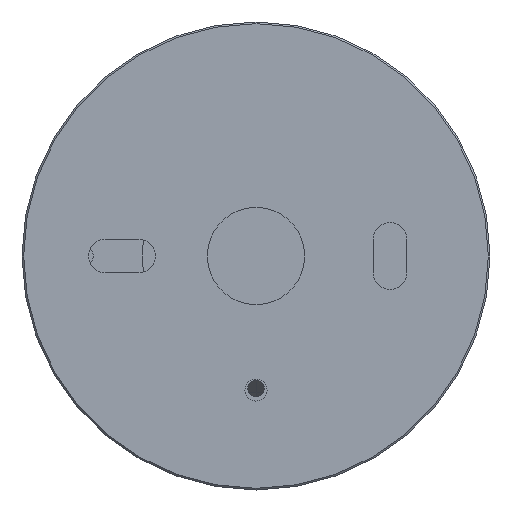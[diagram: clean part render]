
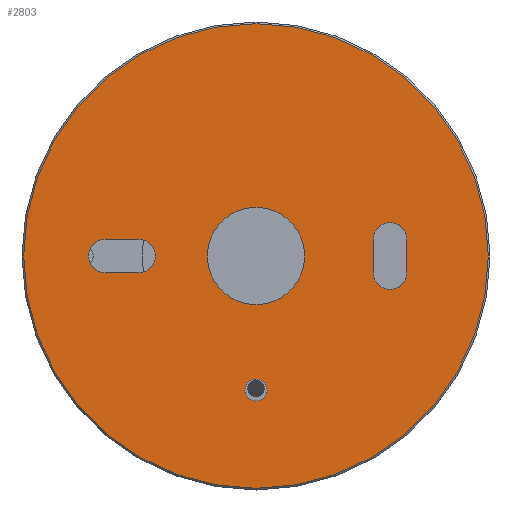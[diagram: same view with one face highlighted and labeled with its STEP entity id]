
A CAD part, front view. The second image highlights one B-rep face of the part: STEP entity #2803.
In plain terms, the highlighted planar face has unit normal (0, -1, 0).
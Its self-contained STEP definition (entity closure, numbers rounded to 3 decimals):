
#46 = LINE ( 'NONE', #4424, #12959 ) ;
#106 = CARTESIAN_POINT ( 'NONE',  ( 0., 0., 0. ) ) ;
#146 = AXIS2_PLACEMENT_3D ( 'NONE', #12296, #8902, #11210 ) ;
#591 = ORIENTED_EDGE ( 'NONE', *, *, #10728, .T. ) ;
#607 = AXIS2_PLACEMENT_3D ( 'NONE', #3092, #4299, #9565 ) ;
#684 = AXIS2_PLACEMENT_3D ( 'NONE', #9471, #11489, #11704 ) ;
#854 = CARTESIAN_POINT ( 'NONE',  ( 0., 0., 7.25 ) ) ;
#1094 = VERTEX_POINT ( 'NONE', #8092 ) ;
#1095 = DIRECTION ( 'NONE',  ( 0., 0., 1. ) ) ;
#1181 = CIRCLE ( 'NONE', #6694, 2.5 ) ;
#1344 = EDGE_CURVE ( 'NONE', #12736, #5374, #3098, .T. ) ;
#1399 = ORIENTED_EDGE ( 'NONE', *, *, #1344, .T. ) ;
#1416 = FACE_BOUND ( 'NONE', #4879, .T. ) ;
#1531 = CIRCLE ( 'NONE', #607, 1.65 ) ;
#1618 = CARTESIAN_POINT ( 'NONE',  ( 17.5, 0., -2.5 ) ) ;
#1643 = EDGE_CURVE ( 'NONE', #9329, #2565, #5933, .T. ) ;
#1953 = ORIENTED_EDGE ( 'NONE', *, *, #1643, .T. ) ;
#2135 = DIRECTION ( 'NONE',  ( 1., 0., 0. ) ) ;
#2188 = EDGE_CURVE ( 'NONE', #13664, #12256, #7594, .T. ) ;
#2313 = DIRECTION ( 'NONE',  ( 0., 1., 0. ) ) ;
#2393 = DIRECTION ( 'NONE',  ( 0., 0., 1. ) ) ;
#2423 = VERTEX_POINT ( 'NONE', #3586 ) ;
#2565 = VERTEX_POINT ( 'NONE', #854 ) ;
#2665 = CARTESIAN_POINT ( 'NONE',  ( -22.5, 0., -2.5 ) ) ;
#2700 = ORIENTED_EDGE ( 'NONE', *, *, #4131, .T. ) ;
#2747 = DIRECTION ( 'NONE',  ( 0., -1., 0. ) ) ;
#2803 = ADVANCED_FACE ( 'NONE', ( #7949, #6884, #11275, #1416, #3850 ), #7235, .T. ) ;
#2972 = EDGE_LOOP ( 'NONE', ( #4535, #1953 ) ) ;
#3065 = EDGE_CURVE ( 'NONE', #12521, #13664, #6179, .T. ) ;
#3068 = DIRECTION ( 'NONE',  ( 0., 0., 1. ) ) ;
#3092 = CARTESIAN_POINT ( 'NONE',  ( 0., 0., -20. ) ) ;
#3098 = CIRCLE ( 'NONE', #5391, 2.5 ) ;
#3416 = LINE ( 'NONE', #6795, #11442 ) ;
#3427 = VERTEX_POINT ( 'NONE', #4043 ) ;
#3547 = CARTESIAN_POINT ( 'NONE',  ( 22.5, 0., 2.5 ) ) ;
#3586 = CARTESIAN_POINT ( 'NONE',  ( 0., 0., -18.35 ) ) ;
#3850 = FACE_BOUND ( 'NONE', #2972, .T. ) ;
#3960 = DIRECTION ( 'NONE',  ( -1., 0., 0. ) ) ;
#3989 = CIRCLE ( 'NONE', #11821, 7.25 ) ;
#4043 = CARTESIAN_POINT ( 'NONE',  ( -17.5, 0., 2.5 ) ) ;
#4078 = VERTEX_POINT ( 'NONE', #5813 ) ;
#4095 = AXIS2_PLACEMENT_3D ( 'NONE', #10156, #9869, #1095 ) ;
#4131 = EDGE_CURVE ( 'NONE', #12256, #10272, #46, .T. ) ;
#4295 = CARTESIAN_POINT ( 'NONE',  ( 0., 0., -7.25 ) ) ;
#4299 = DIRECTION ( 'NONE',  ( 0., -1., 0. ) ) ;
#4420 = VERTEX_POINT ( 'NONE', #4842 ) ;
#4424 = CARTESIAN_POINT ( 'NONE',  ( 22.5, 0., -2.5 ) ) ;
#4503 = CIRCLE ( 'NONE', #146, 1.65 ) ;
#4535 = ORIENTED_EDGE ( 'NONE', *, *, #6084, .T. ) ;
#4636 = CARTESIAN_POINT ( 'NONE',  ( -22.5, 0., 2.5 ) ) ;
#4808 = EDGE_CURVE ( 'NONE', #4420, #1094, #10631, .T. ) ;
#4842 = CARTESIAN_POINT ( 'NONE',  ( 0., 0., -34.65 ) ) ;
#4879 = EDGE_LOOP ( 'NONE', ( #5824, #12596, #9806, #8710, #2700 ) ) ;
#5042 = LINE ( 'NONE', #9512, #14080 ) ;
#5374 = VERTEX_POINT ( 'NONE', #9846 ) ;
#5391 = AXIS2_PLACEMENT_3D ( 'NONE', #6863, #13213, #13498 ) ;
#5760 = VECTOR ( 'NONE', #2135, 1000. ) ;
#5813 = CARTESIAN_POINT ( 'NONE',  ( -17.5, 0., -2.5 ) ) ;
#5824 = ORIENTED_EDGE ( 'NONE', *, *, #7548, .T. ) ;
#5933 = CIRCLE ( 'NONE', #4095, 7.25 ) ;
#6077 = DIRECTION ( 'NONE',  ( 0., 1., 0. ) ) ;
#6084 = EDGE_CURVE ( 'NONE', #2565, #9329, #3989, .T. ) ;
#6179 = CIRCLE ( 'NONE', #7582, 2.5 ) ;
#6251 = CARTESIAN_POINT ( 'NONE',  ( 0., 0., 0. ) ) ;
#6261 = AXIS2_PLACEMENT_3D ( 'NONE', #10366, #2747, #7128 ) ;
#6327 = DIRECTION ( 'NONE',  ( 0., 0., -1. ) ) ;
#6502 = AXIS2_PLACEMENT_3D ( 'NONE', #6251, #7331, #6327 ) ;
#6588 = DIRECTION ( 'NONE',  ( 0., 0., -1. ) ) ;
#6622 = ORIENTED_EDGE ( 'NONE', *, *, #10176, .F. ) ;
#6658 = LINE ( 'NONE', #4636, #5760 ) ;
#6694 = AXIS2_PLACEMENT_3D ( 'NONE', #10157, #2313, #2393 ) ;
#6795 = CARTESIAN_POINT ( 'NONE',  ( 17.5, 0., -2.5 ) ) ;
#6863 = CARTESIAN_POINT ( 'NONE',  ( -22.5, 0., 0. ) ) ;
#6884 = FACE_BOUND ( 'NONE', #7784, .T. ) ;
#7040 = ORIENTED_EDGE ( 'NONE', *, *, #4808, .T. ) ;
#7128 = DIRECTION ( 'NONE',  ( 0., 0., -1. ) ) ;
#7235 = PLANE ( 'NONE',  #684 ) ;
#7331 = DIRECTION ( 'NONE',  ( 0., -1., 0. ) ) ;
#7535 = ORIENTED_EDGE ( 'NONE', *, *, #11406, .T. ) ;
#7548 = EDGE_CURVE ( 'NONE', #10272, #7926, #1181, .T. ) ;
#7582 = AXIS2_PLACEMENT_3D ( 'NONE', #8538, #12927, #3068 ) ;
#7594 = CIRCLE ( 'NONE', #11738, 2.5 ) ;
#7784 = EDGE_LOOP ( 'NONE', ( #10926, #6622 ) ) ;
#7855 = ORIENTED_EDGE ( 'NONE', *, *, #12874, .T. ) ;
#7864 = CARTESIAN_POINT ( 'NONE',  ( 20., 0., 5. ) ) ;
#7926 = VERTEX_POINT ( 'NONE', #1618 ) ;
#7949 = FACE_OUTER_BOUND ( 'NONE', #10237, .T. ) ;
#8092 = CARTESIAN_POINT ( 'NONE',  ( 0., 0., 34.65 ) ) ;
#8538 = CARTESIAN_POINT ( 'NONE',  ( 20., 0., 2.5 ) ) ;
#8710 = ORIENTED_EDGE ( 'NONE', *, *, #2188, .T. ) ;
#8902 = DIRECTION ( 'NONE',  ( 0., -1., 0. ) ) ;
#9329 = VERTEX_POINT ( 'NONE', #4295 ) ;
#9471 = CARTESIAN_POINT ( 'NONE',  ( 0., 0., 0. ) ) ;
#9512 = CARTESIAN_POINT ( 'NONE',  ( -22.5, 0., -2.5 ) ) ;
#9565 = DIRECTION ( 'NONE',  ( 0., 0., -1. ) ) ;
#9670 = EDGE_LOOP ( 'NONE', ( #1399, #591, #11190, #7535 ) ) ;
#9806 = ORIENTED_EDGE ( 'NONE', *, *, #3065, .T. ) ;
#9838 = EDGE_CURVE ( 'NONE', #3427, #4078, #14185, .T. ) ;
#9846 = CARTESIAN_POINT ( 'NONE',  ( -22.5, 0., 2.5 ) ) ;
#9869 = DIRECTION ( 'NONE',  ( 0., 1., 0. ) ) ;
#10156 = CARTESIAN_POINT ( 'NONE',  ( 0., 0., 0. ) ) ;
#10157 = CARTESIAN_POINT ( 'NONE',  ( 20., 0., -2.5 ) ) ;
#10172 = DIRECTION ( 'NONE',  ( 0., 0., 1. ) ) ;
#10176 = EDGE_CURVE ( 'NONE', #12540, #2423, #1531, .T. ) ;
#10237 = EDGE_LOOP ( 'NONE', ( #7855, #7040 ) ) ;
#10272 = VERTEX_POINT ( 'NONE', #10932 ) ;
#10366 = CARTESIAN_POINT ( 'NONE',  ( 0., 0., 0. ) ) ;
#10387 = EDGE_CURVE ( 'NONE', #2423, #12540, #4503, .T. ) ;
#10589 = CARTESIAN_POINT ( 'NONE',  ( 17.5, 0., 2.5 ) ) ;
#10631 = CIRCLE ( 'NONE', #6261, 34.65 ) ;
#10672 = CARTESIAN_POINT ( 'NONE',  ( -17.5, 0., 0. ) ) ;
#10728 = EDGE_CURVE ( 'NONE', #5374, #3427, #6658, .T. ) ;
#10926 = ORIENTED_EDGE ( 'NONE', *, *, #10387, .F. ) ;
#10932 = CARTESIAN_POINT ( 'NONE',  ( 22.5, 0., -2.5 ) ) ;
#11190 = ORIENTED_EDGE ( 'NONE', *, *, #9838, .T. ) ;
#11210 = DIRECTION ( 'NONE',  ( 0., 0., -1. ) ) ;
#11275 = FACE_BOUND ( 'NONE', #9670, .T. ) ;
#11406 = EDGE_CURVE ( 'NONE', #4078, #12736, #5042, .T. ) ;
#11442 = VECTOR ( 'NONE', #12201, 1000. ) ;
#11489 = DIRECTION ( 'NONE',  ( 0., -1., 0. ) ) ;
#11551 = CARTESIAN_POINT ( 'NONE',  ( 20., 0., 2.5 ) ) ;
#11704 = DIRECTION ( 'NONE',  ( 0., 0., -1. ) ) ;
#11738 = AXIS2_PLACEMENT_3D ( 'NONE', #11551, #6077, #12717 ) ;
#11821 = AXIS2_PLACEMENT_3D ( 'NONE', #106, #13428, #10172 ) ;
#12201 = DIRECTION ( 'NONE',  ( 0., 0., 1. ) ) ;
#12256 = VERTEX_POINT ( 'NONE', #3547 ) ;
#12296 = CARTESIAN_POINT ( 'NONE',  ( 0., 0., -20. ) ) ;
#12521 = VERTEX_POINT ( 'NONE', #10589 ) ;
#12540 = VERTEX_POINT ( 'NONE', #12901 ) ;
#12596 = ORIENTED_EDGE ( 'NONE', *, *, #13700, .T. ) ;
#12717 = DIRECTION ( 'NONE',  ( 0., 0., 1. ) ) ;
#12719 = CIRCLE ( 'NONE', #6502, 34.65 ) ;
#12736 = VERTEX_POINT ( 'NONE', #2665 ) ;
#12874 = EDGE_CURVE ( 'NONE', #1094, #4420, #12719, .T. ) ;
#12901 = CARTESIAN_POINT ( 'NONE',  ( 0., 0., -21.65 ) ) ;
#12927 = DIRECTION ( 'NONE',  ( 0., 1., 0. ) ) ;
#12959 = VECTOR ( 'NONE', #6588, 1000. ) ;
#12984 = DIRECTION ( 'NONE',  ( 0., 0., 1. ) ) ;
#13213 = DIRECTION ( 'NONE',  ( 0., 1., 0. ) ) ;
#13428 = DIRECTION ( 'NONE',  ( 0., 1., 0. ) ) ;
#13498 = DIRECTION ( 'NONE',  ( 0., 0., 1. ) ) ;
#13664 = VERTEX_POINT ( 'NONE', #7864 ) ;
#13700 = EDGE_CURVE ( 'NONE', #7926, #12521, #3416, .T. ) ;
#13953 = AXIS2_PLACEMENT_3D ( 'NONE', #10672, #14076, #12984 ) ;
#14076 = DIRECTION ( 'NONE',  ( 0., 1., 0. ) ) ;
#14080 = VECTOR ( 'NONE', #3960, 1000. ) ;
#14185 = CIRCLE ( 'NONE', #13953, 2.5 ) ;
